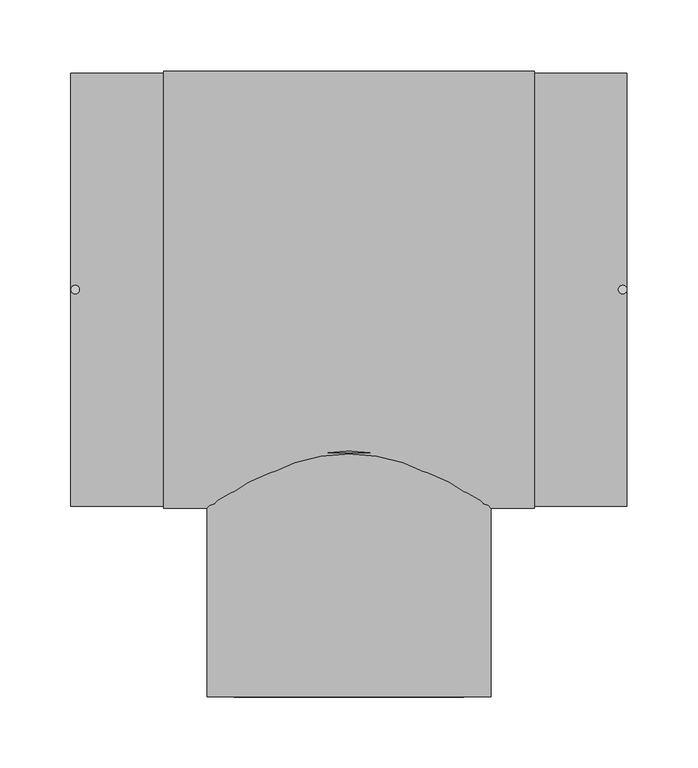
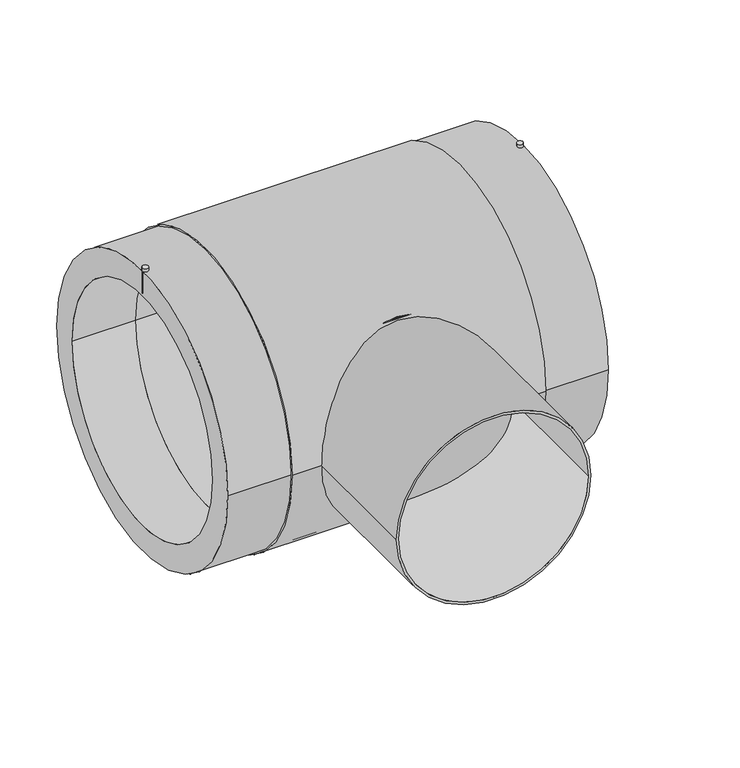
"""IFC4 building model written with IfcOpenShell, lengths in millimetres: pipe fitting geometry, EGB_VASEN_ PPR_Te electrosoldable WXRD300_Te reducida electrosoldable WXRD310 : Te electrosoldable."""

from ifc_helpers import new_model, si_unit, point, frame, frame_2d, origin, origin_2d, place, context, project, spatial, circle_curve, trimmed, segment, composite_curve, outline, extrude, source, transform, mapped, element, save


def pipe_fitting_ba73d095(model_context):
    return source(origin(), model_context, "Body", "SweptSolid", [
        extrude(outline(composite_curve([segment(trimmed(circle_curve(frame_2d((-193.0, 0.0)), 3.0), [point((-196.0, 0.0))], [point((-190.0, 0.0))], False, "CARTESIAN"), True, "CONTINUOUS"), segment(trimmed(circle_curve(frame_2d((-193.0, 0.0)), 3.0), [point((-190.0, 0.0))], [point((-196.0, 0.0))], False, "CARTESIAN"), True, "CONTINUOUS")], self_intersect=False)), frame((0.0, 0.0, 128.0), z_axis=(0.0, 0.0, 1.0), x_axis=(1.0, 0.0, 0.0)), (0.0, 0.0, 1.0), 27.5),
        extrude(outline(composite_curve([segment(trimmed(circle_curve(frame_2d((193.0, 0.0)), 3.0), [point((190.0, 0.0))], [point((196.0, 0.0))], False, "CARTESIAN"), True, "CONTINUOUS"), segment(trimmed(circle_curve(frame_2d((193.0, 0.0)), 3.0), [point((196.0, 0.0))], [point((190.0, 0.0))], False, "CARTESIAN"), True, "CONTINUOUS")], self_intersect=False)), frame((0.0, 0.0, 128.0), z_axis=(0.0, 0.0, 1.0), x_axis=(1.0, 0.0, 0.0)), (0.0, 0.0, 1.0), 27.5),
        extrude(outline(composite_curve([segment(trimmed(circle_curve(origin_2d(), 102.5), [point((0.0, 102.5))], [point((0.0, -102.5))], False, "CARTESIAN"), True, "CONTINUOUS"), segment(trimmed(circle_curve(origin_2d(), 102.5), [point((0.0, -102.5))], [point((0.0, 102.5))], False, "CARTESIAN"), True, "CONTINUOUS")], self_intersect=False)), frame((0.0, -114.8, 0.0), z_axis=(0.0, 1.0, 0.0), x_axis=(0.0, 0.0, 1.0)), (0.0, 0.0, 1.0), 114.8),
        extrude(outline(composite_curve([segment(trimmed(circle_curve(origin_2d(), 100.0), [point((0.0, -100.0))], [point((0.0, 100.0))], False, "CARTESIAN"), True, "CONTINUOUS"), segment(trimmed(circle_curve(origin_2d(), 100.0), [point((0.0, 100.0))], [point((0.0, -100.0))], False, "CARTESIAN"), True, "CONTINUOUS")], self_intersect=False), holes=[composite_curve([segment(trimmed(circle_curve(origin_2d(), 97.5), [point((0.0, -97.5))], [point((0.0, 97.5))], True, "CARTESIAN"), True, "CONTINUOUS"), segment(trimmed(circle_curve(origin_2d(), 97.5), [point((0.0, 97.5))], [point((0.0, -97.5))], True, "CARTESIAN"), True, "CONTINUOUS")], self_intersect=False)]), frame((0.0, -287.0, 0.0), z_axis=(0.0, 1.0, 0.0), x_axis=(0.0, 0.0, 1.0)), (0.0, 0.0, 1.0), 172.2),
        extrude(outline(composite_curve([segment(trimmed(circle_curve(origin_2d(), 154.0), [point((-154.0, 0.0))], [point((154.0, 0.0))], False, "CARTESIAN"), True, "CONTINUOUS"), segment(trimmed(circle_curve(origin_2d(), 154.0), [point((154.0, 0.0))], [point((-154.0, 0.0))], False, "CARTESIAN"), True, "CONTINUOUS")], self_intersect=False), holes=[composite_curve([segment(trimmed(circle_curve(origin_2d(), 125.0), [point((-125.0, 0.0))], [point((125.0, 0.0))], True, "CARTESIAN"), True, "CONTINUOUS"), segment(trimmed(circle_curve(origin_2d(), 125.0), [point((125.0, 0.0))], [point((-125.0, 0.0))], True, "CARTESIAN"), True, "CONTINUOUS")], self_intersect=False)]), frame((-130.6666667, 0.0, 0.0), z_axis=(1.0, 0.0, 0.0), x_axis=(0.0, 1.0, 0.0)), (0.0, 0.0, 1.0), 261.3333333),
        extrude(outline(composite_curve([segment(trimmed(circle_curve(origin_2d(), 152.5), [point((-152.5, 0.0))], [point((152.5, 0.0))], False, "CARTESIAN"), True, "CONTINUOUS"), segment(trimmed(circle_curve(origin_2d(), 152.5), [point((152.5, 0.0))], [point((-152.5, 0.0))], False, "CARTESIAN"), True, "CONTINUOUS")], self_intersect=False), holes=[composite_curve([segment(trimmed(circle_curve(origin_2d(), 125.0), [point((-125.0, 0.0))], [point((125.0, 0.0))], True, "CARTESIAN"), True, "CONTINUOUS"), segment(trimmed(circle_curve(origin_2d(), 125.0), [point((125.0, 0.0))], [point((-125.0, 0.0))], True, "CARTESIAN"), True, "CONTINUOUS")], self_intersect=False)]), frame((-196.0, 0.0, 0.0), z_axis=(1.0, 0.0, 0.0), x_axis=(0.0, 1.0, 0.0)), (0.0, 0.0, 1.0), 392.0),
    ])


if __name__ == "__main__":
    model = new_model("IFC4")
    model_context = context("Model", 3, world=origin())
    ifc_project = project(units=[si_unit("LENGTHUNIT", "METRE", prefix="MILLI")], contexts=[model_context])
    site = spatial("IfcSite", under=ifc_project)
    building = spatial("IfcBuilding", under=site)
    placement = place(None, origin())
    pipe_fitting_shape = pipe_fitting_ba73d095(model_context)
    element("IfcPipeFitting", 1, ObjectType="EGB_VASEN_ PPR_Te electrosoldable WXRD300_Te reducida electrosoldable WXRD310 : Te electrosoldable", at=placement, inside=building, context=model_context, shape_type="MappedRepresentation", body=[
        mapped(pipe_fitting_shape, transform((0.0, 0.0, 0.0), x_axis=(1.0, 0.0, 0.0), y_axis=(0.0, 1.0, 0.0), z_axis=(0.0, 0.0, 1.0))),
    ])
    save(model, "model.ifc")
